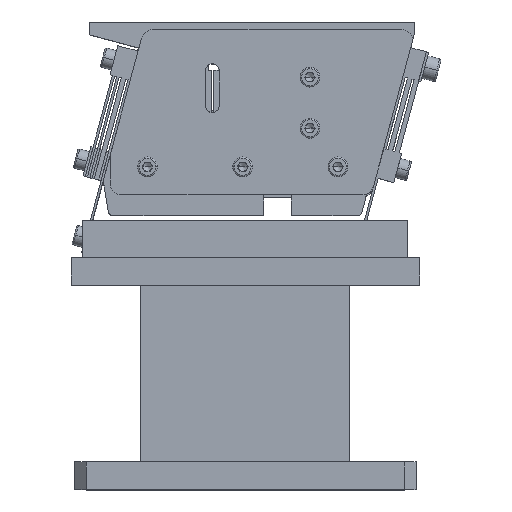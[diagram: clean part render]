
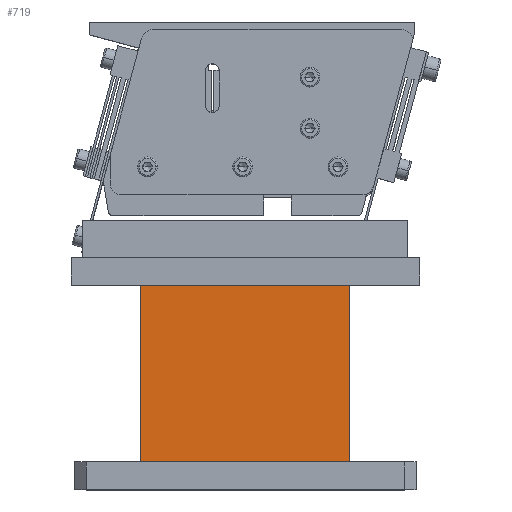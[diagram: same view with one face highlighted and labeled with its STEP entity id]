
A CAD part, top view. The second image highlights one B-rep face of the part: STEP entity #719.
In plain terms, the highlighted planar face has unit normal (0, 0, 1).
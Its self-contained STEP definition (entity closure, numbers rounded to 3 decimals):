
#719 = ADVANCED_FACE ( 'NONE', ( #1770 ), #18959, .F. ) ;
#1393 = CARTESIAN_POINT ( 'NONE',  ( 22.056, -113.376, 30. ) ) ;
#1770 = FACE_OUTER_BOUND ( 'NONE', #23460, .T. ) ;
#1895 = ORIENTED_EDGE ( 'NONE', *, *, #12235, .T. ) ;
#2804 = DIRECTION ( 'NONE',  ( -1., 0., 0. ) ) ;
#3552 = DIRECTION ( 'NONE',  ( 0., -1., 0. ) ) ;
#5271 = EDGE_CURVE ( 'NONE', #11999, #9812, #22924, .T. ) ;
#5623 = DIRECTION ( 'NONE',  ( 0., 1., 0. ) ) ;
#6964 = LINE ( 'NONE', #20563, #21407 ) ;
#7258 = CARTESIAN_POINT ( 'NONE',  ( 22.056, -189.376, 30. ) ) ;
#7928 = CARTESIAN_POINT ( 'NONE',  ( 112.056, -189.376, 30. ) ) ;
#8583 = ORIENTED_EDGE ( 'NONE', *, *, #22094, .T. ) ;
#9196 = ORIENTED_EDGE ( 'NONE', *, *, #15453, .F. ) ;
#9431 = DIRECTION ( 'NONE',  ( 0., 0., -1. ) ) ;
#9556 = CARTESIAN_POINT ( 'NONE',  ( 17.056, -189.376, 30. ) ) ;
#9812 = VERTEX_POINT ( 'NONE', #17443 ) ;
#9965 = ORIENTED_EDGE ( 'NONE', *, *, #5271, .T. ) ;
#10593 = CARTESIAN_POINT ( 'NONE',  ( 17.056, -113.376, 30. ) ) ;
#10770 = CARTESIAN_POINT ( 'NONE',  ( 22.056, -189.376, 30. ) ) ;
#11084 = DIRECTION ( 'NONE',  ( 0., -1., 0. ) ) ;
#11638 = VECTOR ( 'NONE', #11084, 1000. ) ;
#11999 = VERTEX_POINT ( 'NONE', #16306 ) ;
#12177 = AXIS2_PLACEMENT_3D ( 'NONE', #9556, #9431, #3552 ) ;
#12235 = EDGE_CURVE ( 'NONE', #14717, #18867, #23020, .T. ) ;
#14717 = VERTEX_POINT ( 'NONE', #1393 ) ;
#15219 = DIRECTION ( 'NONE',  ( -1., 0., 0. ) ) ;
#15453 = EDGE_CURVE ( 'NONE', #11999, #18867, #6964, .T. ) ;
#16306 = CARTESIAN_POINT ( 'NONE',  ( 112.056, -189.376, 30. ) ) ;
#17411 = VECTOR ( 'NONE', #2804, 1000. ) ;
#17443 = CARTESIAN_POINT ( 'NONE',  ( 112.056, -113.376, 30. ) ) ;
#18207 = LINE ( 'NONE', #10593, #17411 ) ;
#18660 = VECTOR ( 'NONE', #5623, 1000. ) ;
#18867 = VERTEX_POINT ( 'NONE', #10770 ) ;
#18959 = PLANE ( 'NONE',  #12177 ) ;
#20563 = CARTESIAN_POINT ( 'NONE',  ( 17.056, -189.376, 30. ) ) ;
#21407 = VECTOR ( 'NONE', #15219, 1000. ) ;
#22094 = EDGE_CURVE ( 'NONE', #9812, #14717, #18207, .T. ) ;
#22924 = LINE ( 'NONE', #7928, #18660 ) ;
#23020 = LINE ( 'NONE', #7258, #11638 ) ;
#23460 = EDGE_LOOP ( 'NONE', ( #9196, #9965, #8583, #1895 ) ) ;
